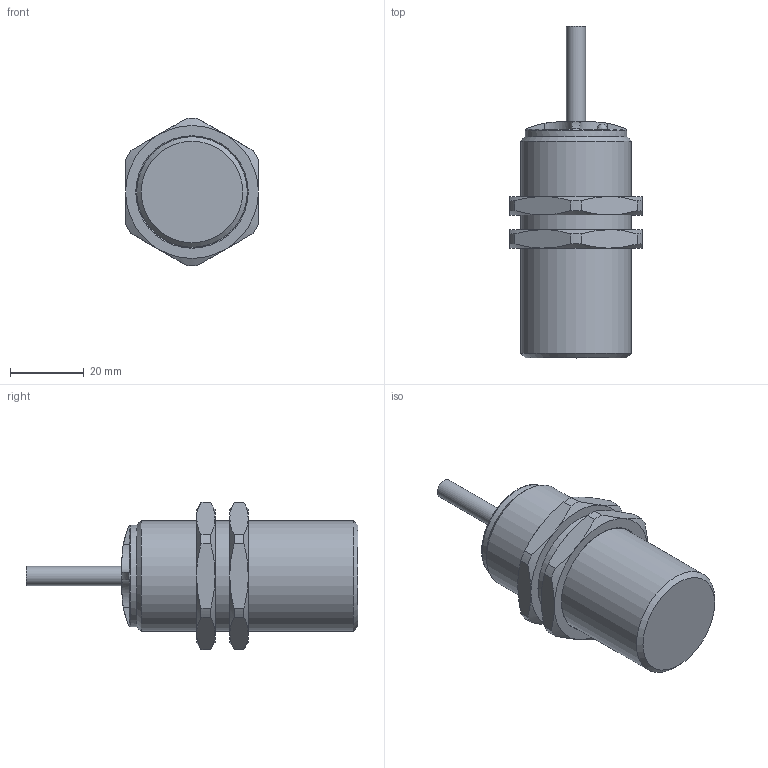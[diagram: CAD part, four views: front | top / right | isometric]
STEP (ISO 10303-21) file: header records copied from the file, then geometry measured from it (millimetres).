
FILE_DESCRIPTION((''),'2;1');
FILE_NAME('C:\TurckZip\Bi-G30-X-60.stp','2010-11-04T10:42:52',('IKOROL'),(''),'Autodesk Inventor 2010','Autodesk Inventor 2010','');
FILE_SCHEMA(('CONFIG_CONTROL_DESIGN'));
Length unit declared in the file: millimetre
Products named in the file (1): Part3
Bounding box: 36 x 90 x 39.99 mm (x, y, z)
Surface area: 9705.6 mm2
Topology: 3 solids, 4 shells, 104 faces, 242 edges, 149 vertices
Faces by surface type: plane 40, cone 30, cylinder 21, bspline 10, torus 2, sphere 1
Full cylindrical faces by diameter (mm): 5.2 x1, 27.5 x1, 30 x3
Entity records: 3080 total; most frequent: CARTESIAN_POINT 866, DIRECTION 426, ORIENTED_EDGE 420, EDGE_CURVE 210, AXIS2_PLACEMENT_3D 193, VERTEX_POINT 139, EDGE_LOOP 132, FACE_OUTER_BOUND 104
